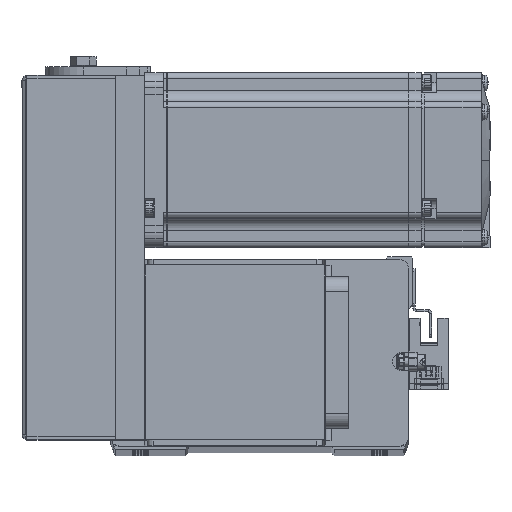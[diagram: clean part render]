
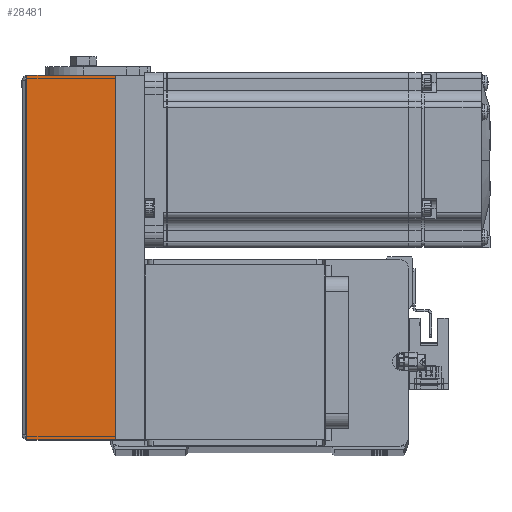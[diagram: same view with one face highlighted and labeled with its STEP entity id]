
A CAD part, top view. The second image highlights one B-rep face of the part: STEP entity #28481.
In plain terms, the highlighted planar face has unit normal (0, 0, 1).
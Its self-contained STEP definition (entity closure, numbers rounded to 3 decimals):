
#614 = EDGE_CURVE ( 'NONE', #20578, #25853, #31213, .T. ) ;
#3212 = EDGE_CURVE ( 'NONE', #14062, #20578, #14751, .T. ) ;
#8328 = EDGE_LOOP ( 'NONE', ( #32483, #16172, #20640, #45088 ) ) ;
#8412 = CARTESIAN_POINT ( 'NONE',  ( 0., -30.8, 31. ) ) ;
#8466 = CARTESIAN_POINT ( 'NONE',  ( 0., 0., 31. ) ) ;
#12077 = CARTESIAN_POINT ( 'NONE',  ( 62.5, -30.3, 31. ) ) ;
#12240 = VECTOR ( 'NONE', #39762, 1000. ) ;
#14062 = VERTEX_POINT ( 'NONE', #12077 ) ;
#14751 = LINE ( 'NONE', #18796, #40982 ) ;
#16172 = ORIENTED_EDGE ( 'NONE', *, *, #3212, .T. ) ;
#16732 = DIRECTION ( 'NONE',  ( 0., 0., -1. ) ) ;
#18796 = CARTESIAN_POINT ( 'NONE',  ( 62.5, -30.3, 31. ) ) ;
#20523 = PLANE ( 'NONE',  #26145 ) ;
#20578 = VERTEX_POINT ( 'NONE', #45626 ) ;
#20640 = ORIENTED_EDGE ( 'NONE', *, *, #614, .T. ) ;
#23812 = DIRECTION ( 'NONE',  ( 0., -1., 0. ) ) ;
#24520 = CARTESIAN_POINT ( 'NONE',  ( -62.5, 0., 31. ) ) ;
#25853 = VERTEX_POINT ( 'NONE', #24520 ) ;
#26009 = CARTESIAN_POINT ( 'NONE',  ( -62.5, -30.3, 31. ) ) ;
#26145 = AXIS2_PLACEMENT_3D ( 'NONE', #8412, #16732, #23812 ) ;
#26598 = EDGE_CURVE ( 'NONE', #34677, #25853, #47580, .T. ) ;
#28481 = ADVANCED_FACE ( 'NONE', ( #34939 ), #20523, .F. ) ;
#29164 = VECTOR ( 'NONE', #45146, 1000. ) ;
#29769 = CARTESIAN_POINT ( 'NONE',  ( -62.5, -30.3, 31. ) ) ;
#31213 = LINE ( 'NONE', #8466, #35950 ) ;
#32483 = ORIENTED_EDGE ( 'NONE', *, *, #42927, .F. ) ;
#34044 = LINE ( 'NONE', #29769, #29164 ) ;
#34677 = VERTEX_POINT ( 'NONE', #26009 ) ;
#34939 = FACE_OUTER_BOUND ( 'NONE', #8328, .T. ) ;
#35459 = CARTESIAN_POINT ( 'NONE',  ( -62.5, -30.3, 31. ) ) ;
#35950 = VECTOR ( 'NONE', #38789, 1000. ) ;
#38789 = DIRECTION ( 'NONE',  ( -1., 0., 0. ) ) ;
#38939 = DIRECTION ( 'NONE',  ( 0., 1., 0. ) ) ;
#39762 = DIRECTION ( 'NONE',  ( 0., 1., 0. ) ) ;
#40982 = VECTOR ( 'NONE', #38939, 1000. ) ;
#42927 = EDGE_CURVE ( 'NONE', #14062, #34677, #34044, .T. ) ;
#45088 = ORIENTED_EDGE ( 'NONE', *, *, #26598, .F. ) ;
#45146 = DIRECTION ( 'NONE',  ( -1., 0., 0. ) ) ;
#45626 = CARTESIAN_POINT ( 'NONE',  ( 62.5, 0., 31. ) ) ;
#47580 = LINE ( 'NONE', #35459, #12240 ) ;
